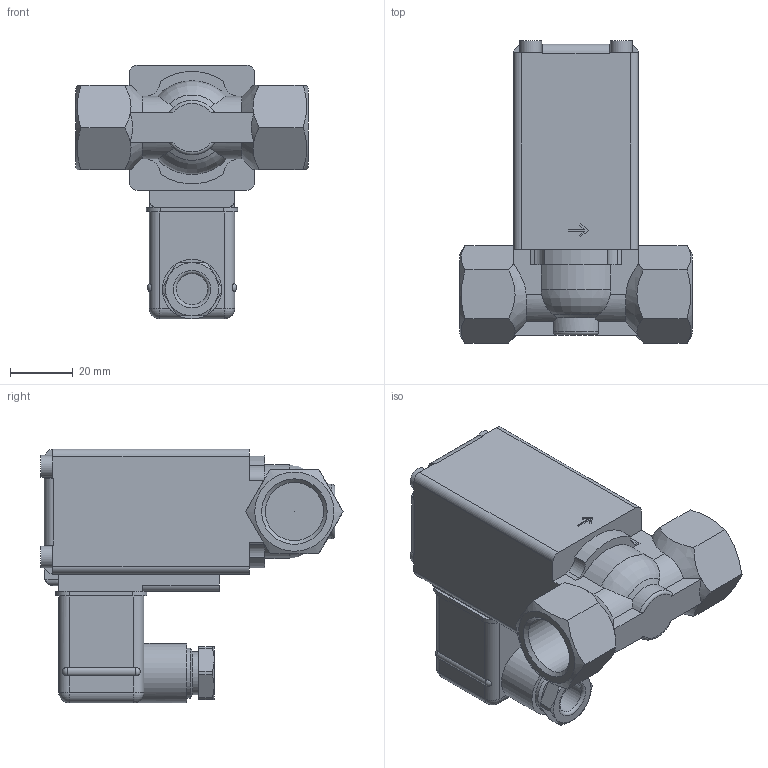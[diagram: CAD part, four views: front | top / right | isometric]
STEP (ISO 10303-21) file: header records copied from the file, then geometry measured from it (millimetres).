
FILE_DESCRIPTION(/* description */ ('STEP AP214'),/* implementation_level */ '2;1');
FILE_NAME(/* name */ '0256-145802-2_2-way_Solenoid_Valve',/* time_stamp */ '2024-08-05T17:21:55+02:00',/* author */ ('License CC BY-ND 4.0'),/* organization */ ('CADENAS'),/* preprocessor_version */ 'ST-DEVELOPER v19.3',/* originating_system */ 'PARTsolutions',/* authorisation */ ' ');
FILE_SCHEMA (('AUTOMOTIVE_DESIGN {1 0 10303 214 3 1 1}'));
Length unit declared in the file: millimetre
Products named in the file (1): 0256-145802-2/2-way Solenoid Valve
Bounding box: 74.5 x 96.69 x 81.2 mm (x, y, z)
Volume: 178888.6 mm3; surface area: 28706.5 mm2
Topology: 1 solids, 1 shells, 238 faces, 617 edges, 393 vertices
Faces by surface type: plane 137, cylinder 68, cone 18, sphere 10, torus 5
Full cylindrical faces by diameter (mm): 0.2 x2, 7 x5, 10 x1, 13.7 x1, 16 x1, 18.631 x2, 19 x1
Entity records: 8960 total; most frequent: CARTESIAN_POINT 1605, ORIENTED_EDGE 1182, DIRECTION 1142, EDGE_CURVE 591, AXIS2_PLACEMENT_3D 404, VERTEX_POINT 391, LINE 334, VECTOR 334
